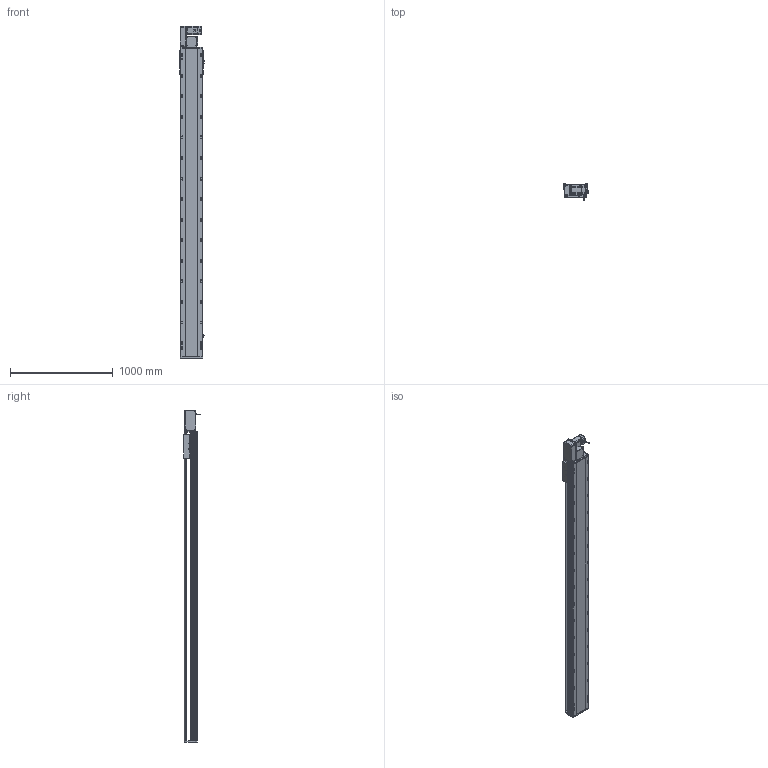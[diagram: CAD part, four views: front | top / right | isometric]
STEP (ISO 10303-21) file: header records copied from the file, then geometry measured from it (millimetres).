
FILE_DESCRIPTION (( 'STEP AP214' ), '1' );
FILE_NAME ('RTB22S-XX-2650-L-M75-C4.STEP', '2025-12-12T03:28:37', ( '' ), ( '' ), 'SwSTEP 2.0', 'SolidWorks 2018', '' );
FILE_SCHEMA (( 'AUTOMOTIVE_DESIGN' ));
Length unit declared in the file: millimetre
Products named in the file (14): RTB22S-GY-018P^RTB22S-L-々湍釱蚾饜_RTB22S-XX-XX-L-M75-C4; RTB22S-GY-014--々湍釱^RTB22S-L-々湍釱蚾饜_RTB22S-XX-XX-L-M75-C4; RTB22S-GY-007奻裔^RTB22S-XX-XX-L-M75-C4; RTB22S-L-011菁釱^RTB22S-XX-XX-L-M75-C4; RTB22S-L-004賑釱^RTB22S-XX-XX-L-M75-C4; 750W萇儂^RTB22S-XX-XX-L-M75-C4; RTB22S-GY-008-M75--萇儂啣^RTB22S-L-々湍釱蚾饜_RTB22S-XX-XX-L-M75-C4; RTB22S-GY-001耜裔^RTB22S-XX-XX-L-M75-C4; RTH22-GY-013外置感应片^RTB22S-XX-XX-L-M75-C4; RTB22S-GY-017P^RTB22S-L-々湍釱蚾饜_RTB22S-XX-XX-L-M75-C4; RTB22S-L-々湍釱蚾饜^RTB22S-XX-XX-L-M75-C4; RTB22S-XX-2650-L-M75-C4; OMRON EE-SX672 传感器^RTB22S-XX-XX-L-M75-C4; RTB22S-GY-005P^RTB22S-L-々湍釱蚾饜_RTB22S-XX-XX-L-M75-C4
Assembly tree (16 placements, depth 3):
  RTB22S-XX-2650-L-M75-C4
    RTB22S-L-011菁釱^RTB22S-XX-XX-L-M75-C4
    750W萇儂^RTB22S-XX-XX-L-M75-C4
    RTB22S-L-004賑釱^RTB22S-XX-XX-L-M75-C4
    OMRON EE-SX672 传感器^RTB22S-XX-XX-L-M75-C4  x3
    RTH22-GY-013外置感应片^RTB22S-XX-XX-L-M75-C4
    RTB22S-GY-007奻裔^RTB22S-XX-XX-L-M75-C4
    RTB22S-GY-001耜裔^RTB22S-XX-XX-L-M75-C4
    RTB22S-L-々湍釱蚾饜^RTB22S-XX-XX-L-M75-C4
      RTB22S-GY-014--々湍釱^RTB22S-L-々湍釱蚾饜_RTB22S-XX-XX-L-M75-C4
      RTB22S-GY-017P^RTB22S-L-々湍釱蚾饜_RTB22S-XX-XX-L-M75-C4  x2
      RTB22S-GY-005P^RTB22S-L-々湍釱蚾饜_RTB22S-XX-XX-L-M75-C4
      RTB22S-GY-008-M75--萇儂啣^RTB22S-L-々湍釱蚾饜_RTB22S-XX-XX-L-M75-C4
      RTB22S-GY-018P^RTB22S-L-々湍釱蚾饜_RTB22S-XX-XX-L-M75-C4
Bounding box: 238.5 x 162.7 x 3229 mm (x, y, z)
Volume: 40507555.6 mm3; surface area: 4139840.2 mm2
Topology: 15 solids, 15 shells, 2127 faces, 5786 edges, 3692 vertices
Faces by surface type: plane 931, cylinder 718, bspline 296, cone 170, sphere 8, torus 4
Entity records: 58032 total; most frequent: CARTESIAN_POINT 16356, ORIENTED_EDGE 8296, DIRECTION 8122, EDGE_CURVE 4148, AXIS2_PLACEMENT_3D 2918, VERTEX_POINT 2696, VECTOR 2286, LINE 2286
